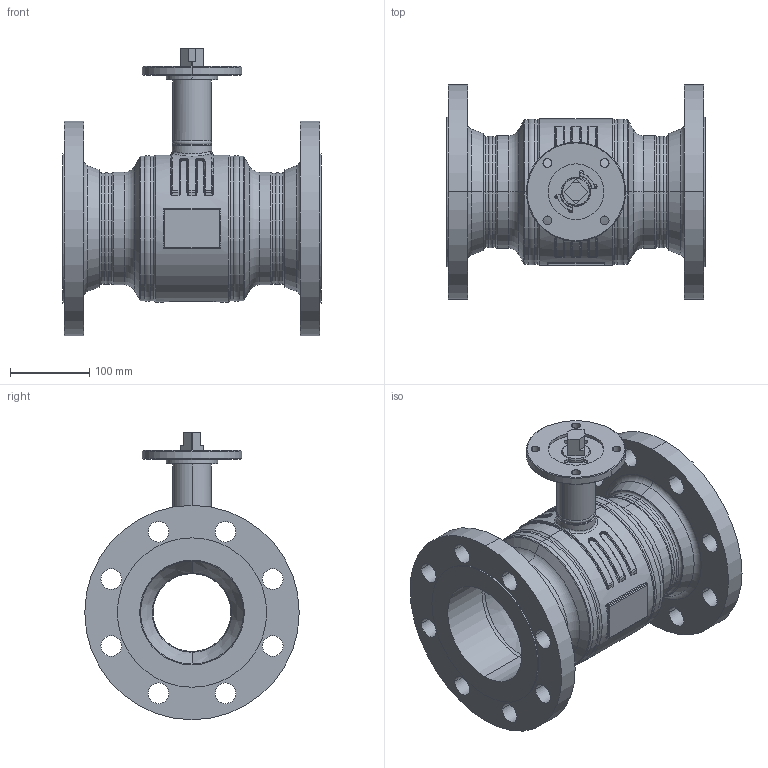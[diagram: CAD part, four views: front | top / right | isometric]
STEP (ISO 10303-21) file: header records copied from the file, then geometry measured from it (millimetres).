
FILE_DESCRIPTION((''),'2;1');
FILE_NAME('KHMO-F-R-H-125R100P04_SW0001','2025-04-23T09:36:25',('jeitlers'),('KLINGER'),'CREO PARAMETRIC BY PTC INC, 2023014','CREO PARAMETRIC BY PTC INC, 2023014','');
FILE_SCHEMA(('CONFIG_CONTROL_DESIGN'));
Length unit declared in the file: millimetre
Products named in the file (1): KHMO-F-R-H-125R100P04_SW0001
Bounding box: 325 x 270 x 362 mm (x, y, z)
Volume: 4364546.1 mm3; surface area: 831448.8 mm2
Topology: 2 solids, 2 shells, 604 faces, 1451 edges, 866 vertices
Faces by surface type: cylinder 230, torus 124, plane 108, cone 82, bspline 52, sphere 8
Entity records: 29838 total; most frequent: CARTESIAN_POINT 15624, DIRECTION 3167, ORIENTED_EDGE 2886, EDGE_CURVE 1443, AXIS2_PLACEMENT_3D 1346, VERTEX_POINT 866, CIRCLE 794, EDGE_LOOP 687
